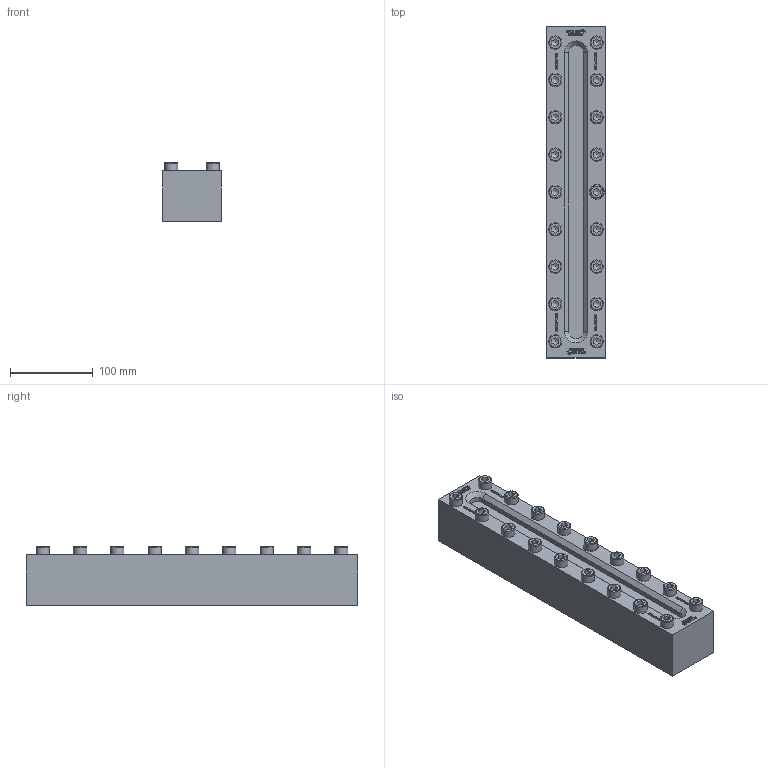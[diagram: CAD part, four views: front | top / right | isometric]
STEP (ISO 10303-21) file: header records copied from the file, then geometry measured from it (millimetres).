
FILE_DESCRIPTION(/* description */ (''),/* implementation_level */ '2;1');
FILE_NAME(/* name */ 'W:\Konstruktion_ACI\330\_Zeichnungen\STEP\ACI-330-400-40.stp',/* time_stamp */ '2022-03-01T17:16:35+01:00',/* author */ ('koslowksi'),/* organization */ (''),/* preprocessor_version */ 'ST-DEVELOPER v16.1',/* originating_system */ 'Autodesk Inventor 2016',/* authorisation */ '');
FILE_SCHEMA (('AUTOMOTIVE_DESIGN { 1 0 10303 214 3 1 1 }'));
Length unit declared in the file: centimetre
Products named in the file (1): ACI-330-400-40.stp
Bounding box: 70 x 400 x 70.9 mm (x, y, z)
Volume: 1532977 mm3; surface area: 145245.5 mm2
Topology: 1 solids, 1 shells, 1298 faces, 3496 edges, 2323 vertices
Faces by surface type: plane 935, bspline 302, cylinder 23, cone 20, torus 18
Full cylindrical faces by diameter (mm): 16 x18, 18 x1
Entity records: 42270 total; most frequent: CARTESIAN_POINT 11135, ORIENTED_EDGE 6812, DIRECTION 4754, EDGE_CURVE 3406, LINE 2628, VECTOR 2628, VERTEX_POINT 2288, EDGE_LOOP 1476
